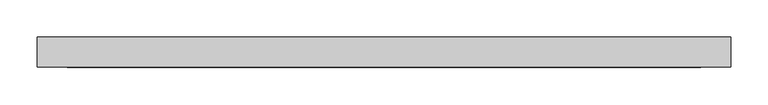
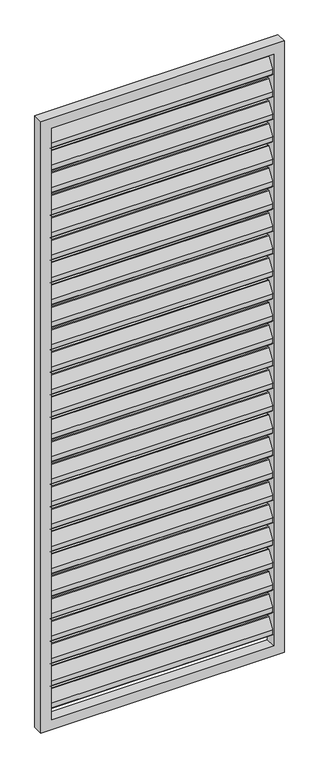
"""IFC4 building model written with IfcOpenShell, lengths in millimetres: proxy geometry, Renson_Amani_Loggia_Paro_Aluminium_Fix : Renson_Amani_Loggia_Paro_Aluminium_Fix."""

from ifc_helpers import new_model, si_unit, point, frame, frame_2d, origin, place, context, project, spatial, polyline, circle_curve, trimmed, segment, composite_curve, outline, extrude, source, transform, mapped, element, save


def generic_models_aca7f397(model_context):
    return source(origin(), model_context, "Body", "SweptSolid", [
        extrude(outline(composite_curve([segment(trimmed(circle_curve(frame_2d((12.6675921, 2432.6587719)), 3.0), [point((10.1515804, 2434.292689))], [point((15.6675921, 2432.6587719))], False, "CARTESIAN"), True, "CONTINUOUS"), segment(polyline([(15.6675921, 2432.6587719), (15.6675921, 2414.2979873)]), True, "CONTINUOUS"), segment(trimmed(circle_curve(frame_2d((12.6675921, 2414.2979873)), 3.0), [point((15.6675921, 2414.2979873))], [point((15.1836038, 2412.6640702))], False, "CARTESIAN"), True, "CONTINUOUS"), segment(polyline([(15.1836038, 2412.6640702), (-8.8163962, 2375.707311)]), True, "CONTINUOUS"), segment(trimmed(circle_curve(frame_2d((-11.3324079, 2377.3412281)), 3.0), [point((-8.8163962, 2375.707311))], [point((-14.3324079, 2377.3412281))], False, "CARTESIAN"), True, "CONTINUOUS"), segment(polyline([(-14.3324079, 2377.3412281), (-14.3324079, 2396.5906532), (10.1515804, 2434.292689)]), True, "CONTINUOUS")], self_intersect=False)), frame((-422.5, 0.0, 0.0), z_axis=(1.0, 0.0, 0.0), x_axis=(0.0, 1.0, 0.0)), (0.0, 0.0, 1.0), 845.0),
        extrude(outline(composite_curve([segment(trimmed(circle_curve(frame_2d((12.6675921, 2342.6587719)), 3.0), [point((10.1515804, 2344.292689))], [point((15.6675921, 2342.6587719))], False, "CARTESIAN"), True, "CONTINUOUS"), segment(polyline([(15.6675921, 2342.6587719), (15.6675921, 2324.2979873)]), True, "CONTINUOUS"), segment(trimmed(circle_curve(frame_2d((12.6675921, 2324.2979873)), 3.0), [point((15.6675921, 2324.2979873))], [point((15.1836038, 2322.6640702))], False, "CARTESIAN"), True, "CONTINUOUS"), segment(polyline([(15.1836038, 2322.6640702), (-8.8163962, 2285.707311)]), True, "CONTINUOUS"), segment(trimmed(circle_curve(frame_2d((-11.3324079, 2287.3412281)), 3.0), [point((-8.8163962, 2285.707311))], [point((-14.3324079, 2287.3412281))], False, "CARTESIAN"), True, "CONTINUOUS"), segment(polyline([(-14.3324079, 2287.3412281), (-14.3324079, 2306.5906532), (10.1515804, 2344.292689)]), True, "CONTINUOUS")], self_intersect=False)), frame((-422.5, 0.0, 0.0), z_axis=(1.0, 0.0, 0.0), x_axis=(0.0, 1.0, 0.0)), (0.0, 0.0, 1.0), 845.0),
        extrude(outline(composite_curve([segment(trimmed(circle_curve(frame_2d((12.6675921, 2252.6587719)), 3.0), [point((10.1515804, 2254.292689))], [point((15.6675921, 2252.6587719))], False, "CARTESIAN"), True, "CONTINUOUS"), segment(polyline([(15.6675921, 2252.6587719), (15.6675921, 2234.2979873)]), True, "CONTINUOUS"), segment(trimmed(circle_curve(frame_2d((12.6675921, 2234.2979873)), 3.0), [point((15.6675921, 2234.2979873))], [point((15.1836038, 2232.6640702))], False, "CARTESIAN"), True, "CONTINUOUS"), segment(polyline([(15.1836038, 2232.6640702), (-8.8163962, 2195.707311)]), True, "CONTINUOUS"), segment(trimmed(circle_curve(frame_2d((-11.3324079, 2197.3412281)), 3.0), [point((-8.8163962, 2195.707311))], [point((-14.3324079, 2197.3412281))], False, "CARTESIAN"), True, "CONTINUOUS"), segment(polyline([(-14.3324079, 2197.3412281), (-14.3324079, 2216.5906532), (10.1515804, 2254.292689)]), True, "CONTINUOUS")], self_intersect=False)), frame((-422.5, 0.0, 0.0), z_axis=(1.0, 0.0, 0.0), x_axis=(0.0, 1.0, 0.0)), (0.0, 0.0, 1.0), 845.0),
        extrude(outline(composite_curve([segment(trimmed(circle_curve(frame_2d((12.6675921, 2162.6587719)), 3.0), [point((10.1515804, 2164.292689))], [point((15.6675921, 2162.6587719))], False, "CARTESIAN"), True, "CONTINUOUS"), segment(polyline([(15.6675921, 2162.6587719), (15.6675921, 2144.2979873)]), True, "CONTINUOUS"), segment(trimmed(circle_curve(frame_2d((12.6675921, 2144.2979873)), 3.0), [point((15.6675921, 2144.2979873))], [point((15.1836038, 2142.6640702))], False, "CARTESIAN"), True, "CONTINUOUS"), segment(polyline([(15.1836038, 2142.6640702), (-8.8163962, 2105.707311)]), True, "CONTINUOUS"), segment(trimmed(circle_curve(frame_2d((-11.3324079, 2107.3412281)), 3.0), [point((-8.8163962, 2105.707311))], [point((-14.3324079, 2107.3412281))], False, "CARTESIAN"), True, "CONTINUOUS"), segment(polyline([(-14.3324079, 2107.3412281), (-14.3324079, 2126.5906532), (10.1515804, 2164.292689)]), True, "CONTINUOUS")], self_intersect=False)), frame((-422.5, 0.0, 0.0), z_axis=(1.0, 0.0, 0.0), x_axis=(0.0, 1.0, 0.0)), (0.0, 0.0, 1.0), 845.0),
        extrude(outline(composite_curve([segment(trimmed(circle_curve(frame_2d((12.6675921, 2072.6587719)), 3.0), [point((10.1515804, 2074.292689))], [point((15.6675921, 2072.6587719))], False, "CARTESIAN"), True, "CONTINUOUS"), segment(polyline([(15.6675921, 2072.6587719), (15.6675921, 2054.2979873)]), True, "CONTINUOUS"), segment(trimmed(circle_curve(frame_2d((12.6675921, 2054.2979873)), 3.0), [point((15.6675921, 2054.2979873))], [point((15.1836038, 2052.6640702))], False, "CARTESIAN"), True, "CONTINUOUS"), segment(polyline([(15.1836038, 2052.6640702), (-8.8163962, 2015.707311)]), True, "CONTINUOUS"), segment(trimmed(circle_curve(frame_2d((-11.3324079, 2017.3412281)), 3.0), [point((-8.8163962, 2015.707311))], [point((-14.3324079, 2017.3412281))], False, "CARTESIAN"), True, "CONTINUOUS"), segment(polyline([(-14.3324079, 2017.3412281), (-14.3324079, 2036.5906532), (10.1515804, 2074.292689)]), True, "CONTINUOUS")], self_intersect=False)), frame((-422.5, 0.0, 0.0), z_axis=(1.0, 0.0, 0.0), x_axis=(0.0, 1.0, 0.0)), (0.0, 0.0, 1.0), 845.0),
        extrude(outline(composite_curve([segment(trimmed(circle_curve(frame_2d((12.6675921, 1982.6587719)), 3.0), [point((10.1515804, 1984.292689))], [point((15.6675921, 1982.6587719))], False, "CARTESIAN"), True, "CONTINUOUS"), segment(polyline([(15.6675921, 1982.6587719), (15.6675921, 1964.2979873)]), True, "CONTINUOUS"), segment(trimmed(circle_curve(frame_2d((12.6675921, 1964.2979873)), 3.0), [point((15.6675921, 1964.2979873))], [point((15.1836038, 1962.6640702))], False, "CARTESIAN"), True, "CONTINUOUS"), segment(polyline([(15.1836038, 1962.6640702), (-8.8163962, 1925.707311)]), True, "CONTINUOUS"), segment(trimmed(circle_curve(frame_2d((-11.3324079, 1927.3412281)), 3.0), [point((-8.8163962, 1925.707311))], [point((-14.3324079, 1927.3412281))], False, "CARTESIAN"), True, "CONTINUOUS"), segment(polyline([(-14.3324079, 1927.3412281), (-14.3324079, 1946.5906532), (10.1515804, 1984.292689)]), True, "CONTINUOUS")], self_intersect=False)), frame((-422.5, 0.0, 0.0), z_axis=(1.0, 0.0, 0.0), x_axis=(0.0, 1.0, 0.0)), (0.0, 0.0, 1.0), 845.0),
        extrude(outline(composite_curve([segment(trimmed(circle_curve(frame_2d((12.6675921, 1892.6587719)), 3.0), [point((10.1515804, 1894.292689))], [point((15.6675921, 1892.6587719))], False, "CARTESIAN"), True, "CONTINUOUS"), segment(polyline([(15.6675921, 1892.6587719), (15.6675921, 1874.2979873)]), True, "CONTINUOUS"), segment(trimmed(circle_curve(frame_2d((12.6675921, 1874.2979873)), 3.0), [point((15.6675921, 1874.2979873))], [point((15.1836038, 1872.6640702))], False, "CARTESIAN"), True, "CONTINUOUS"), segment(polyline([(15.1836038, 1872.6640702), (-8.8163962, 1835.707311)]), True, "CONTINUOUS"), segment(trimmed(circle_curve(frame_2d((-11.3324079, 1837.3412281)), 3.0), [point((-8.8163962, 1835.707311))], [point((-14.3324079, 1837.3412281))], False, "CARTESIAN"), True, "CONTINUOUS"), segment(polyline([(-14.3324079, 1837.3412281), (-14.3324079, 1856.5906532), (10.1515804, 1894.292689)]), True, "CONTINUOUS")], self_intersect=False)), frame((-422.5, 0.0, 0.0), z_axis=(1.0, 0.0, 0.0), x_axis=(0.0, 1.0, 0.0)), (0.0, 0.0, 1.0), 845.0),
        extrude(outline(composite_curve([segment(trimmed(circle_curve(frame_2d((12.6675921, 1802.6587719)), 3.0), [point((10.1515804, 1804.292689))], [point((15.6675921, 1802.6587719))], False, "CARTESIAN"), True, "CONTINUOUS"), segment(polyline([(15.6675921, 1802.6587719), (15.6675921, 1784.2979873)]), True, "CONTINUOUS"), segment(trimmed(circle_curve(frame_2d((12.6675921, 1784.2979873)), 3.0), [point((15.6675921, 1784.2979873))], [point((15.1836038, 1782.6640702))], False, "CARTESIAN"), True, "CONTINUOUS"), segment(polyline([(15.1836038, 1782.6640702), (-8.8163962, 1745.707311)]), True, "CONTINUOUS"), segment(trimmed(circle_curve(frame_2d((-11.3324079, 1747.3412281)), 3.0), [point((-8.8163962, 1745.707311))], [point((-14.3324079, 1747.3412281))], False, "CARTESIAN"), True, "CONTINUOUS"), segment(polyline([(-14.3324079, 1747.3412281), (-14.3324079, 1766.5906532), (10.1515804, 1804.292689)]), True, "CONTINUOUS")], self_intersect=False)), frame((-422.5, 0.0, 0.0), z_axis=(1.0, 0.0, 0.0), x_axis=(0.0, 1.0, 0.0)), (0.0, 0.0, 1.0), 845.0),
        extrude(outline(composite_curve([segment(trimmed(circle_curve(frame_2d((12.6675921, 1712.6587719)), 3.0), [point((10.1515804, 1714.292689))], [point((15.6675921, 1712.6587719))], False, "CARTESIAN"), True, "CONTINUOUS"), segment(polyline([(15.6675921, 1712.6587719), (15.6675921, 1694.2979873)]), True, "CONTINUOUS"), segment(trimmed(circle_curve(frame_2d((12.6675921, 1694.2979873)), 3.0), [point((15.6675921, 1694.2979873))], [point((15.1836038, 1692.6640702))], False, "CARTESIAN"), True, "CONTINUOUS"), segment(polyline([(15.1836038, 1692.6640702), (-8.8163962, 1655.707311)]), True, "CONTINUOUS"), segment(trimmed(circle_curve(frame_2d((-11.3324079, 1657.3412281)), 3.0), [point((-8.8163962, 1655.707311))], [point((-14.3324079, 1657.3412281))], False, "CARTESIAN"), True, "CONTINUOUS"), segment(polyline([(-14.3324079, 1657.3412281), (-14.3324079, 1676.5906532), (10.1515804, 1714.292689)]), True, "CONTINUOUS")], self_intersect=False)), frame((-422.5, 0.0, 0.0), z_axis=(1.0, 0.0, 0.0), x_axis=(0.0, 1.0, 0.0)), (0.0, 0.0, 1.0), 845.0),
        extrude(outline(composite_curve([segment(trimmed(circle_curve(frame_2d((12.6675921, 1622.6587719)), 3.0), [point((10.1515804, 1624.292689))], [point((15.6675921, 1622.6587719))], False, "CARTESIAN"), True, "CONTINUOUS"), segment(polyline([(15.6675921, 1622.6587719), (15.6675921, 1604.2979873)]), True, "CONTINUOUS"), segment(trimmed(circle_curve(frame_2d((12.6675921, 1604.2979873)), 3.0), [point((15.6675921, 1604.2979873))], [point((15.1836038, 1602.6640702))], False, "CARTESIAN"), True, "CONTINUOUS"), segment(polyline([(15.1836038, 1602.6640702), (-8.8163962, 1565.707311)]), True, "CONTINUOUS"), segment(trimmed(circle_curve(frame_2d((-11.3324079, 1567.3412281)), 3.0), [point((-8.8163962, 1565.707311))], [point((-14.3324079, 1567.3412281))], False, "CARTESIAN"), True, "CONTINUOUS"), segment(polyline([(-14.3324079, 1567.3412281), (-14.3324079, 1586.5906532), (10.1515804, 1624.292689)]), True, "CONTINUOUS")], self_intersect=False)), frame((-422.5, 0.0, 0.0), z_axis=(1.0, 0.0, 0.0), x_axis=(0.0, 1.0, 0.0)), (0.0, 0.0, 1.0), 845.0),
        extrude(outline(composite_curve([segment(trimmed(circle_curve(frame_2d((12.6675921, 1532.6587719)), 3.0), [point((10.1515804, 1534.292689))], [point((15.6675921, 1532.6587719))], False, "CARTESIAN"), True, "CONTINUOUS"), segment(polyline([(15.6675921, 1532.6587719), (15.6675921, 1514.2979873)]), True, "CONTINUOUS"), segment(trimmed(circle_curve(frame_2d((12.6675921, 1514.2979873)), 3.0), [point((15.6675921, 1514.2979873))], [point((15.1836038, 1512.6640702))], False, "CARTESIAN"), True, "CONTINUOUS"), segment(polyline([(15.1836038, 1512.6640702), (-8.8163962, 1475.707311)]), True, "CONTINUOUS"), segment(trimmed(circle_curve(frame_2d((-11.3324079, 1477.3412281)), 3.0), [point((-8.8163962, 1475.707311))], [point((-14.3324079, 1477.3412281))], False, "CARTESIAN"), True, "CONTINUOUS"), segment(polyline([(-14.3324079, 1477.3412281), (-14.3324079, 1496.5906532), (10.1515804, 1534.292689)]), True, "CONTINUOUS")], self_intersect=False)), frame((-422.5, 0.0, 0.0), z_axis=(1.0, 0.0, 0.0), x_axis=(0.0, 1.0, 0.0)), (0.0, 0.0, 1.0), 845.0),
        extrude(outline(composite_curve([segment(trimmed(circle_curve(frame_2d((12.6675921, 1442.6587719)), 3.0), [point((10.1515804, 1444.292689))], [point((15.6675921, 1442.6587719))], False, "CARTESIAN"), True, "CONTINUOUS"), segment(polyline([(15.6675921, 1442.6587719), (15.6675921, 1424.2979873)]), True, "CONTINUOUS"), segment(trimmed(circle_curve(frame_2d((12.6675921, 1424.2979873)), 3.0), [point((15.6675921, 1424.2979873))], [point((15.1836038, 1422.6640702))], False, "CARTESIAN"), True, "CONTINUOUS"), segment(polyline([(15.1836038, 1422.6640702), (-8.8163962, 1385.707311)]), True, "CONTINUOUS"), segment(trimmed(circle_curve(frame_2d((-11.3324079, 1387.3412281)), 3.0), [point((-8.8163962, 1385.707311))], [point((-14.3324079, 1387.3412281))], False, "CARTESIAN"), True, "CONTINUOUS"), segment(polyline([(-14.3324079, 1387.3412281), (-14.3324079, 1406.5906532), (10.1515804, 1444.292689)]), True, "CONTINUOUS")], self_intersect=False)), frame((-422.5, 0.0, 0.0), z_axis=(1.0, 0.0, 0.0), x_axis=(0.0, 1.0, 0.0)), (0.0, 0.0, 1.0), 845.0),
        extrude(outline(composite_curve([segment(trimmed(circle_curve(frame_2d((12.6675921, 1352.6587719)), 3.0), [point((10.1515804, 1354.292689))], [point((15.6675921, 1352.6587719))], False, "CARTESIAN"), True, "CONTINUOUS"), segment(polyline([(15.6675921, 1352.6587719), (15.6675921, 1334.2979873)]), True, "CONTINUOUS"), segment(trimmed(circle_curve(frame_2d((12.6675921, 1334.2979873)), 3.0), [point((15.6675921, 1334.2979873))], [point((15.1836038, 1332.6640702))], False, "CARTESIAN"), True, "CONTINUOUS"), segment(polyline([(15.1836038, 1332.6640702), (-8.8163962, 1295.707311)]), True, "CONTINUOUS"), segment(trimmed(circle_curve(frame_2d((-11.3324079, 1297.3412281)), 3.0), [point((-8.8163962, 1295.707311))], [point((-14.3324079, 1297.3412281))], False, "CARTESIAN"), True, "CONTINUOUS"), segment(polyline([(-14.3324079, 1297.3412281), (-14.3324079, 1316.5906532), (10.1515804, 1354.292689)]), True, "CONTINUOUS")], self_intersect=False)), frame((-422.5, 0.0, 0.0), z_axis=(1.0, 0.0, 0.0), x_axis=(0.0, 1.0, 0.0)), (0.0, 0.0, 1.0), 845.0),
        extrude(outline(composite_curve([segment(trimmed(circle_curve(frame_2d((12.6675921, 1262.6587719)), 3.0), [point((10.1515804, 1264.292689))], [point((15.6675921, 1262.6587719))], False, "CARTESIAN"), True, "CONTINUOUS"), segment(polyline([(15.6675921, 1262.6587719), (15.6675921, 1244.2979873)]), True, "CONTINUOUS"), segment(trimmed(circle_curve(frame_2d((12.6675921, 1244.2979873)), 3.0), [point((15.6675921, 1244.2979873))], [point((15.1836038, 1242.6640702))], False, "CARTESIAN"), True, "CONTINUOUS"), segment(polyline([(15.1836038, 1242.6640702), (-8.8163962, 1205.707311)]), True, "CONTINUOUS"), segment(trimmed(circle_curve(frame_2d((-11.3324079, 1207.3412281)), 3.0), [point((-8.8163962, 1205.707311))], [point((-14.3324079, 1207.3412281))], False, "CARTESIAN"), True, "CONTINUOUS"), segment(polyline([(-14.3324079, 1207.3412281), (-14.3324079, 1226.5906532), (10.1515804, 1264.292689)]), True, "CONTINUOUS")], self_intersect=False)), frame((-422.5, 0.0, 0.0), z_axis=(1.0, 0.0, 0.0), x_axis=(0.0, 1.0, 0.0)), (0.0, 0.0, 1.0), 845.0),
        extrude(outline(composite_curve([segment(trimmed(circle_curve(frame_2d((12.6675921, 1172.6587719)), 3.0), [point((10.1515804, 1174.292689))], [point((15.6675921, 1172.6587719))], False, "CARTESIAN"), True, "CONTINUOUS"), segment(polyline([(15.6675921, 1172.6587719), (15.6675921, 1154.2979873)]), True, "CONTINUOUS"), segment(trimmed(circle_curve(frame_2d((12.6675921, 1154.2979873)), 3.0), [point((15.6675921, 1154.2979873))], [point((15.1836038, 1152.6640702))], False, "CARTESIAN"), True, "CONTINUOUS"), segment(polyline([(15.1836038, 1152.6640702), (-8.8163962, 1115.707311)]), True, "CONTINUOUS"), segment(trimmed(circle_curve(frame_2d((-11.3324079, 1117.3412281)), 3.0), [point((-8.8163962, 1115.707311))], [point((-14.3324079, 1117.3412281))], False, "CARTESIAN"), True, "CONTINUOUS"), segment(polyline([(-14.3324079, 1117.3412281), (-14.3324079, 1136.5906532), (10.1515804, 1174.292689)]), True, "CONTINUOUS")], self_intersect=False)), frame((-422.5, 0.0, 0.0), z_axis=(1.0, 0.0, 0.0), x_axis=(0.0, 1.0, 0.0)), (0.0, 0.0, 1.0), 845.0),
        extrude(outline(composite_curve([segment(trimmed(circle_curve(frame_2d((12.6675921, 1082.6587719)), 3.0), [point((10.1515804, 1084.292689))], [point((15.6675921, 1082.6587719))], False, "CARTESIAN"), True, "CONTINUOUS"), segment(polyline([(15.6675921, 1082.6587719), (15.6675921, 1064.2979873)]), True, "CONTINUOUS"), segment(trimmed(circle_curve(frame_2d((12.6675921, 1064.2979873)), 3.0), [point((15.6675921, 1064.2979873))], [point((15.1836038, 1062.6640702))], False, "CARTESIAN"), True, "CONTINUOUS"), segment(polyline([(15.1836038, 1062.6640702), (-8.8163962, 1025.707311)]), True, "CONTINUOUS"), segment(trimmed(circle_curve(frame_2d((-11.3324079, 1027.3412281)), 3.0), [point((-8.8163962, 1025.707311))], [point((-14.3324079, 1027.3412281))], False, "CARTESIAN"), True, "CONTINUOUS"), segment(polyline([(-14.3324079, 1027.3412281), (-14.3324079, 1046.5906532), (10.1515804, 1084.292689)]), True, "CONTINUOUS")], self_intersect=False)), frame((-422.5, 0.0, 0.0), z_axis=(1.0, 0.0, 0.0), x_axis=(0.0, 1.0, 0.0)), (0.0, 0.0, 1.0), 845.0),
        extrude(outline(composite_curve([segment(trimmed(circle_curve(frame_2d((12.6675921, 992.6587719)), 3.0), [point((10.1515804, 994.292689))], [point((15.6675921, 992.6587719))], False, "CARTESIAN"), True, "CONTINUOUS"), segment(polyline([(15.6675921, 992.6587719), (15.6675921, 974.2979873)]), True, "CONTINUOUS"), segment(trimmed(circle_curve(frame_2d((12.6675921, 974.2979873)), 3.0), [point((15.6675921, 974.2979873))], [point((15.1836038, 972.6640702))], False, "CARTESIAN"), True, "CONTINUOUS"), segment(polyline([(15.1836038, 972.6640702), (-8.8163962, 935.707311)]), True, "CONTINUOUS"), segment(trimmed(circle_curve(frame_2d((-11.3324079, 937.3412281)), 3.0), [point((-8.8163962, 935.707311))], [point((-14.3324079, 937.3412281))], False, "CARTESIAN"), True, "CONTINUOUS"), segment(polyline([(-14.3324079, 937.3412281), (-14.3324079, 956.5906532), (10.1515804, 994.292689)]), True, "CONTINUOUS")], self_intersect=False)), frame((-422.5, 0.0, 0.0), z_axis=(1.0, 0.0, 0.0), x_axis=(0.0, 1.0, 0.0)), (0.0, 0.0, 1.0), 845.0),
        extrude(outline(composite_curve([segment(trimmed(circle_curve(frame_2d((12.6675921, 902.6587719)), 3.0), [point((10.1515804, 904.292689))], [point((15.6675921, 902.6587719))], False, "CARTESIAN"), True, "CONTINUOUS"), segment(polyline([(15.6675921, 902.6587719), (15.6675921, 884.2979873)]), True, "CONTINUOUS"), segment(trimmed(circle_curve(frame_2d((12.6675921, 884.2979873)), 3.0), [point((15.6675921, 884.2979873))], [point((15.1836038, 882.6640702))], False, "CARTESIAN"), True, "CONTINUOUS"), segment(polyline([(15.1836038, 882.6640702), (-8.8163962, 845.707311)]), True, "CONTINUOUS"), segment(trimmed(circle_curve(frame_2d((-11.3324079, 847.3412281)), 3.0), [point((-8.8163962, 845.707311))], [point((-14.3324079, 847.3412281))], False, "CARTESIAN"), True, "CONTINUOUS"), segment(polyline([(-14.3324079, 847.3412281), (-14.3324079, 866.5906532), (10.1515804, 904.292689)]), True, "CONTINUOUS")], self_intersect=False)), frame((-422.5, 0.0, 0.0), z_axis=(1.0, 0.0, 0.0), x_axis=(0.0, 1.0, 0.0)), (0.0, 0.0, 1.0), 845.0),
        extrude(outline(composite_curve([segment(trimmed(circle_curve(frame_2d((12.6675921, 812.6587719)), 3.0), [point((10.1515804, 814.292689))], [point((15.6675921, 812.6587719))], False, "CARTESIAN"), True, "CONTINUOUS"), segment(polyline([(15.6675921, 812.6587719), (15.6675921, 794.2979873)]), True, "CONTINUOUS"), segment(trimmed(circle_curve(frame_2d((12.6675921, 794.2979873)), 3.0), [point((15.6675921, 794.2979873))], [point((15.1836038, 792.6640702))], False, "CARTESIAN"), True, "CONTINUOUS"), segment(polyline([(15.1836038, 792.6640702), (-8.8163962, 755.707311)]), True, "CONTINUOUS"), segment(trimmed(circle_curve(frame_2d((-11.3324079, 757.3412281)), 3.0), [point((-8.8163962, 755.707311))], [point((-14.3324079, 757.3412281))], False, "CARTESIAN"), True, "CONTINUOUS"), segment(polyline([(-14.3324079, 757.3412281), (-14.3324079, 776.5906532), (10.1515804, 814.292689)]), True, "CONTINUOUS")], self_intersect=False)), frame((-422.5, 0.0, 0.0), z_axis=(1.0, 0.0, 0.0), x_axis=(0.0, 1.0, 0.0)), (0.0, 0.0, 1.0), 845.0),
        extrude(outline(composite_curve([segment(trimmed(circle_curve(frame_2d((12.6675921, 722.6587719)), 3.0), [point((10.1515804, 724.292689))], [point((15.6675921, 722.6587719))], False, "CARTESIAN"), True, "CONTINUOUS"), segment(polyline([(15.6675921, 722.6587719), (15.6675921, 704.2979873)]), True, "CONTINUOUS"), segment(trimmed(circle_curve(frame_2d((12.6675921, 704.2979873)), 3.0), [point((15.6675921, 704.2979873))], [point((15.1836038, 702.6640702))], False, "CARTESIAN"), True, "CONTINUOUS"), segment(polyline([(15.1836038, 702.6640702), (-8.8163962, 665.707311)]), True, "CONTINUOUS"), segment(trimmed(circle_curve(frame_2d((-11.3324079, 667.3412281)), 3.0), [point((-8.8163962, 665.707311))], [point((-14.3324079, 667.3412281))], False, "CARTESIAN"), True, "CONTINUOUS"), segment(polyline([(-14.3324079, 667.3412281), (-14.3324079, 686.5906532), (10.1515804, 724.292689)]), True, "CONTINUOUS")], self_intersect=False)), frame((-422.5, 0.0, 0.0), z_axis=(1.0, 0.0, 0.0), x_axis=(0.0, 1.0, 0.0)), (0.0, 0.0, 1.0), 845.0),
        extrude(outline(composite_curve([segment(trimmed(circle_curve(frame_2d((12.6675921, 632.6587719)), 3.0), [point((10.1515804, 634.292689))], [point((15.6675921, 632.6587719))], False, "CARTESIAN"), True, "CONTINUOUS"), segment(polyline([(15.6675921, 632.6587719), (15.6675921, 614.2979873)]), True, "CONTINUOUS"), segment(trimmed(circle_curve(frame_2d((12.6675921, 614.2979873)), 3.0), [point((15.6675921, 614.2979873))], [point((15.1836038, 612.6640702))], False, "CARTESIAN"), True, "CONTINUOUS"), segment(polyline([(15.1836038, 612.6640702), (-8.8163962, 575.707311)]), True, "CONTINUOUS"), segment(trimmed(circle_curve(frame_2d((-11.3324079, 577.3412281)), 3.0), [point((-8.8163962, 575.707311))], [point((-14.3324079, 577.3412281))], False, "CARTESIAN"), True, "CONTINUOUS"), segment(polyline([(-14.3324079, 577.3412281), (-14.3324079, 596.5906532), (10.1515804, 634.292689)]), True, "CONTINUOUS")], self_intersect=False)), frame((-422.5, 0.0, 0.0), z_axis=(1.0, 0.0, 0.0), x_axis=(0.0, 1.0, 0.0)), (0.0, 0.0, 1.0), 845.0),
        extrude(outline(composite_curve([segment(trimmed(circle_curve(frame_2d((12.6675921, 542.6587719)), 3.0), [point((10.1515804, 544.292689))], [point((15.6675921, 542.6587719))], False, "CARTESIAN"), True, "CONTINUOUS"), segment(polyline([(15.6675921, 542.6587719), (15.6675921, 524.2979873)]), True, "CONTINUOUS"), segment(trimmed(circle_curve(frame_2d((12.6675921, 524.2979873)), 3.0), [point((15.6675921, 524.2979873))], [point((15.1836038, 522.6640702))], False, "CARTESIAN"), True, "CONTINUOUS"), segment(polyline([(15.1836038, 522.6640702), (-8.8163962, 485.707311)]), True, "CONTINUOUS"), segment(trimmed(circle_curve(frame_2d((-11.3324079, 487.3412281)), 3.0), [point((-8.8163962, 485.707311))], [point((-14.3324079, 487.3412281))], False, "CARTESIAN"), True, "CONTINUOUS"), segment(polyline([(-14.3324079, 487.3412281), (-14.3324079, 506.5906532), (10.1515804, 544.292689)]), True, "CONTINUOUS")], self_intersect=False)), frame((-422.5, 0.0, 0.0), z_axis=(1.0, 0.0, 0.0), x_axis=(0.0, 1.0, 0.0)), (0.0, 0.0, 1.0), 845.0),
        extrude(outline(composite_curve([segment(trimmed(circle_curve(frame_2d((12.6675921, 452.6587719)), 3.0), [point((10.1515804, 454.292689))], [point((15.6675921, 452.6587719))], False, "CARTESIAN"), True, "CONTINUOUS"), segment(polyline([(15.6675921, 452.6587719), (15.6675921, 434.2979873)]), True, "CONTINUOUS"), segment(trimmed(circle_curve(frame_2d((12.6675921, 434.2979873)), 3.0), [point((15.6675921, 434.2979873))], [point((15.1836038, 432.6640702))], False, "CARTESIAN"), True, "CONTINUOUS"), segment(polyline([(15.1836038, 432.6640702), (-8.8163962, 395.707311)]), True, "CONTINUOUS"), segment(trimmed(circle_curve(frame_2d((-11.3324079, 397.3412281)), 3.0), [point((-8.8163962, 395.707311))], [point((-14.3324079, 397.3412281))], False, "CARTESIAN"), True, "CONTINUOUS"), segment(polyline([(-14.3324079, 397.3412281), (-14.3324079, 416.5906532), (10.1515804, 454.292689)]), True, "CONTINUOUS")], self_intersect=False)), frame((-422.5, 0.0, 0.0), z_axis=(1.0, 0.0, 0.0), x_axis=(0.0, 1.0, 0.0)), (0.0, 0.0, 1.0), 845.0),
        extrude(outline(composite_curve([segment(trimmed(circle_curve(frame_2d((12.6675921, 362.6587719)), 3.0), [point((10.1515804, 364.292689))], [point((15.6675921, 362.6587719))], False, "CARTESIAN"), True, "CONTINUOUS"), segment(polyline([(15.6675921, 362.6587719), (15.6675921, 344.2979873)]), True, "CONTINUOUS"), segment(trimmed(circle_curve(frame_2d((12.6675921, 344.2979873)), 3.0), [point((15.6675921, 344.2979873))], [point((15.1836038, 342.6640702))], False, "CARTESIAN"), True, "CONTINUOUS"), segment(polyline([(15.1836038, 342.6640702), (-8.8163962, 305.707311)]), True, "CONTINUOUS"), segment(trimmed(circle_curve(frame_2d((-11.3324079, 307.3412281)), 3.0), [point((-8.8163962, 305.707311))], [point((-14.3324079, 307.3412281))], False, "CARTESIAN"), True, "CONTINUOUS"), segment(polyline([(-14.3324079, 307.3412281), (-14.3324079, 326.5906532), (10.1515804, 364.292689)]), True, "CONTINUOUS")], self_intersect=False)), frame((-422.5, 0.0, 0.0), z_axis=(1.0, 0.0, 0.0), x_axis=(0.0, 1.0, 0.0)), (0.0, 0.0, 1.0), 845.0),
        extrude(outline(composite_curve([segment(trimmed(circle_curve(frame_2d((12.6675921, 272.6587719)), 3.0), [point((10.1515804, 274.292689))], [point((15.6675921, 272.6587719))], False, "CARTESIAN"), True, "CONTINUOUS"), segment(polyline([(15.6675921, 272.6587719), (15.6675921, 254.2979873)]), True, "CONTINUOUS"), segment(trimmed(circle_curve(frame_2d((12.6675921, 254.2979873)), 3.0), [point((15.6675921, 254.2979873))], [point((15.1836038, 252.6640702))], False, "CARTESIAN"), True, "CONTINUOUS"), segment(polyline([(15.1836038, 252.6640702), (-8.8163962, 215.707311)]), True, "CONTINUOUS"), segment(trimmed(circle_curve(frame_2d((-11.3324079, 217.3412281)), 3.0), [point((-8.8163962, 215.707311))], [point((-14.3324079, 217.3412281))], False, "CARTESIAN"), True, "CONTINUOUS"), segment(polyline([(-14.3324079, 217.3412281), (-14.3324079, 236.5906532), (10.1515804, 274.292689)]), True, "CONTINUOUS")], self_intersect=False)), frame((-422.5, 0.0, 0.0), z_axis=(1.0, 0.0, 0.0), x_axis=(0.0, 1.0, 0.0)), (0.0, 0.0, 1.0), 845.0),
        extrude(outline(composite_curve([segment(trimmed(circle_curve(frame_2d((12.6675921, 182.6587719)), 3.0), [point((10.1515804, 184.292689))], [point((15.6675921, 182.6587719))], False, "CARTESIAN"), True, "CONTINUOUS"), segment(polyline([(15.6675921, 182.6587719), (15.6675921, 164.2979873)]), True, "CONTINUOUS"), segment(trimmed(circle_curve(frame_2d((12.6675921, 164.2979873)), 3.0), [point((15.6675921, 164.2979873))], [point((15.1836038, 162.6640702))], False, "CARTESIAN"), True, "CONTINUOUS"), segment(polyline([(15.1836038, 162.6640702), (-8.8163962, 125.707311)]), True, "CONTINUOUS"), segment(trimmed(circle_curve(frame_2d((-11.3324079, 127.3412281)), 3.0), [point((-8.8163962, 125.707311))], [point((-14.3324079, 127.3412281))], False, "CARTESIAN"), True, "CONTINUOUS"), segment(polyline([(-14.3324079, 127.3412281), (-14.3324079, 146.5906532), (10.1515804, 184.292689)]), True, "CONTINUOUS")], self_intersect=False)), frame((-422.5, 0.0, 0.0), z_axis=(1.0, 0.0, 0.0), x_axis=(0.0, 1.0, 0.0)), (0.0, 0.0, 1.0), 845.0),
        extrude(outline(polyline([(2500.0, -462.5), (45.0, -462.5), (45.0, 462.5), (2500.0, 462.5), (2500.0, -462.5)]), holes=[polyline([(2460.0, 422.5), (85.0, 422.5), (85.0, -422.5), (2460.0, -422.5), (2460.0, 422.5)])]), frame((0.0, -20.0, 0.0), z_axis=(0.0, 1.0, 0.0), x_axis=(0.0, 0.0, 1.0)), (0.0, 0.0, 1.0), 40.0),
    ])


if __name__ == "__main__":
    model = new_model("IFC4")
    model_context = context("Model", 3, world=origin())
    ifc_project = project(units=[si_unit("LENGTHUNIT", "METRE", prefix="MILLI")], contexts=[model_context])
    site = spatial("IfcSite", under=ifc_project)
    building = spatial("IfcBuilding", under=site)
    placement = place(None, origin())
    generic_models_shape = generic_models_aca7f397(model_context)
    element("IfcBuildingElementProxy", 1, Name="Renson_Amani_Loggia_Paro_Aluminium_Fix : Renson_Amani_Loggia_Paro_Aluminium_Fix", ObjectType="Renson_Amani_Loggia_Paro_Aluminium_Fix : Renson_Amani_Loggia_Paro_Aluminium_Fix", at=placement, inside=building, context=model_context, shape_type="MappedRepresentation", body=[
        mapped(generic_models_shape, transform((0.0, 0.0, 0.0), x_axis=(1.0, 0.0, 0.0), y_axis=(0.0, 1.0, 0.0), z_axis=(0.0, 0.0, 1.0))),
    ])
    save(model, "model.ifc")
